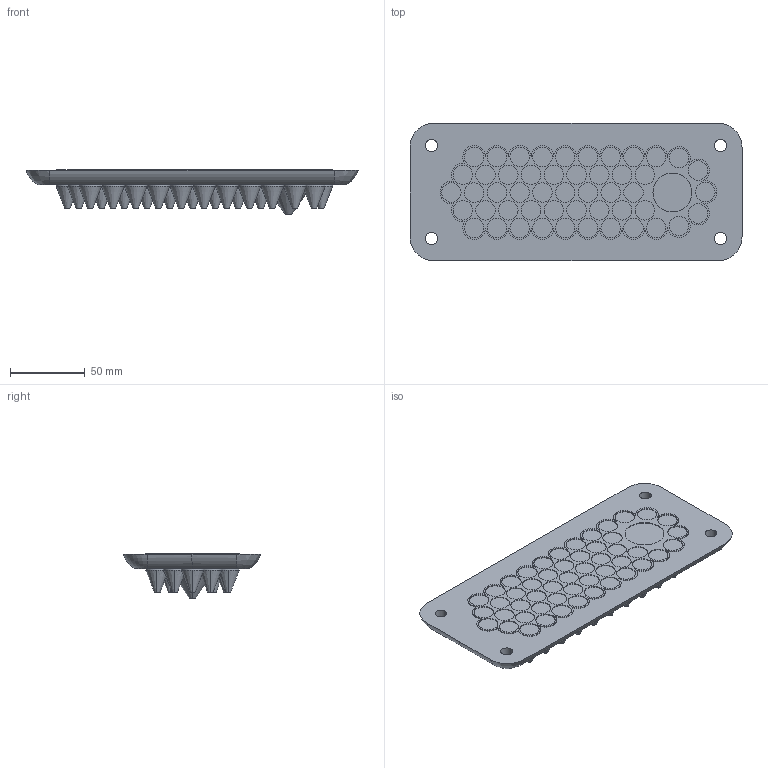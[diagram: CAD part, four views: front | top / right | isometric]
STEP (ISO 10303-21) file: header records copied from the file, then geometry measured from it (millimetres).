
FILE_DESCRIPTION (( 'STEP AP203' ), '1' );
FILE_NAME ('104344.STEP', '2012-12-12T08:42:09', ( 'Joni' ), ( 'Hewlett-Packard Company' ), 'SwSTEP 2.0', 'SolidWorks 2012', '' );
FILE_SCHEMA (( 'CONFIG_CONTROL_DESIGN' ));
Length unit declared in the file: millimetre
Products named in the file (1): 104344
Bounding box: 221.74 x 91.75 x 30 mm (x, y, z)
Volume: 246977.4 mm3; surface area: 61752.9 mm2
Topology: 1 solids, 1 shells, 594 faces, 1388 edges, 855 vertices
Faces by surface type: cylinder 356, plane 129, cone 102, bspline 6, torus 1
Entity records: 18315 total; most frequent: CARTESIAN_POINT 4065, DIRECTION 3350, ORIENTED_EDGE 2776, AXIS2_PLACEMENT_3D 1442, EDGE_CURVE 1388, VERTEX_POINT 855, CIRCLE 853, EDGE_LOOP 661
